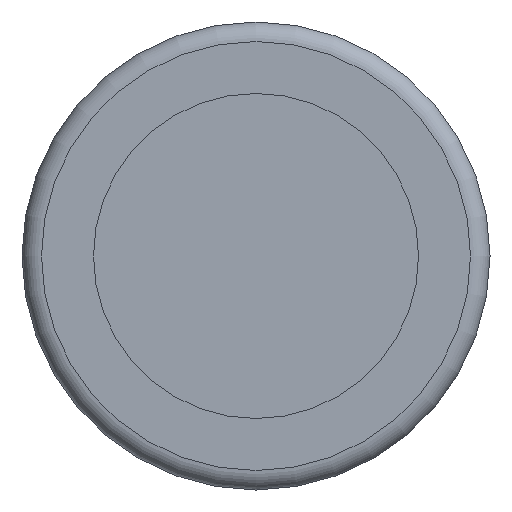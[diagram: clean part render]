
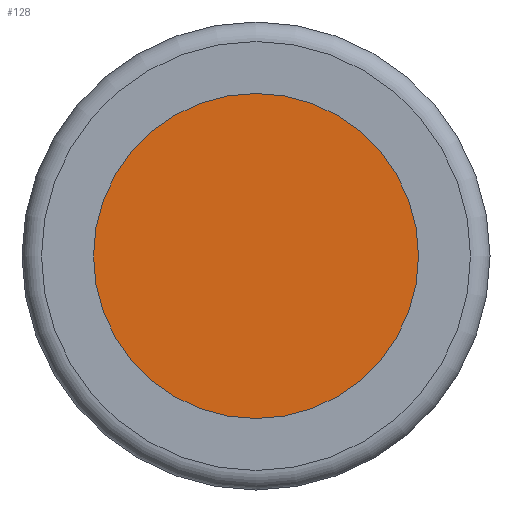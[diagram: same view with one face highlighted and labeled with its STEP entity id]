
A CAD part, left-side view. The second image highlights one B-rep face of the part: STEP entity #128.
In plain terms, the highlighted planar face has unit normal (-1, 0, 0).
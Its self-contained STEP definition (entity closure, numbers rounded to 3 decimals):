
#99=CARTESIAN_POINT('',(0.0,12.5,0.));
#100=VERTEX_POINT('',#99);
#101=CARTESIAN_POINT('',(0.0,0.0,0.0));
#102=DIRECTION('',(-1.0,0.0,0.0));
#103=DIRECTION('',(0.0,-1.0,0.0));
#104=AXIS2_PLACEMENT_3D('',#101,#102,#103);
#105=CIRCLE('',#104,12.5);
#106=EDGE_CURVE('',#100,#100,#105,.T.);
#120=CARTESIAN_POINT('',(0.0,0.0,0.0));
#121=DIRECTION('',(-1.0,0.0,0.0));
#122=DIRECTION('',(0.0,0.0,1.0));
#123=AXIS2_PLACEMENT_3D('',#120,#121,#122);
#124=PLANE('',#123);
#125=ORIENTED_EDGE('',*,*,#106,.T.);
#126=EDGE_LOOP('',(#125));
#127=FACE_OUTER_BOUND('',#126,.T.);
#128=ADVANCED_FACE('',(#127),#124,.T.);
